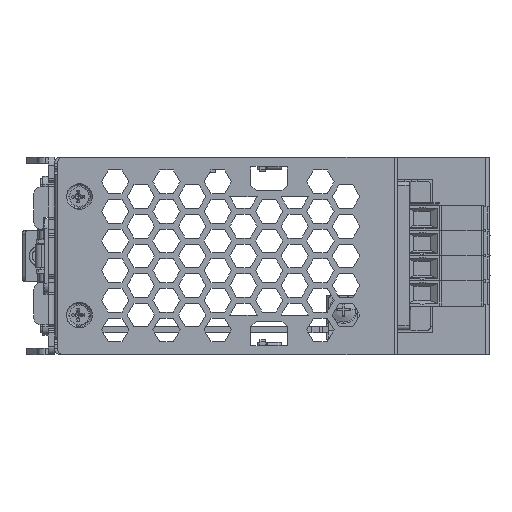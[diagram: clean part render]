
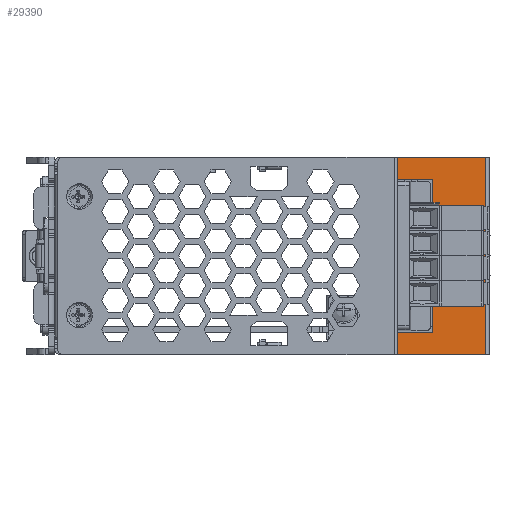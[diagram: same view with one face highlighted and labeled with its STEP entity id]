
A CAD part, front view. The second image highlights one B-rep face of the part: STEP entity #29390.
In plain terms, the highlighted planar face has unit normal (0, -1, 0).
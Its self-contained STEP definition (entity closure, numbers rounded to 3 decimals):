
#15244=DIRECTION('',(-1.,0.,0.));
#15245=VECTOR('',#15244,22.384);
#15246=CARTESIAN_POINT('',(-0.8,-37.,-25.));
#15247=LINE('',#15246,#15245);
#15256=DIRECTION('',(1.,0.,0.));
#15257=VECTOR('',#15256,8.884);
#15258=CARTESIAN_POINT('',(-23.184,-37.,19.35));
#15259=LINE('',#15258,#15257);
#15260=DIRECTION('',(0.,0.,1.));
#15261=VECTOR('',#15260,50.);
#15262=CARTESIAN_POINT('',(-0.8,-37.,-25.));
#15263=LINE('',#15262,#15261);
#15264=DIRECTION('',(1.,0.,0.));
#15265=VECTOR('',#15264,8.884);
#15266=CARTESIAN_POINT('',(-23.184,-37.,-19.35));
#15267=LINE('',#15266,#15265);
#15268=DIRECTION('',(0.,0.,-1.));
#15269=VECTOR('',#15268,38.7);
#15270=CARTESIAN_POINT('',(-14.3,-37.,19.35));
#15271=LINE('',#15270,#15269);
#15285=DIRECTION('',(0.,0.,1.));
#15286=VECTOR('',#15285,5.65);
#15287=CARTESIAN_POINT('',(-23.184,-37.,19.35));
#15288=LINE('',#15287,#15286);
#15294=DIRECTION('',(0.,0.,1.));
#15295=VECTOR('',#15294,5.65);
#15296=CARTESIAN_POINT('',(-23.184,-37.,-25.));
#15297=LINE('',#15296,#15295);
#16032=DIRECTION('',(-1.,0.,0.));
#16033=VECTOR('',#16032,22.384);
#16034=CARTESIAN_POINT('',(-0.8,-37.,25.));
#16035=LINE('',#16034,#16033);
#24799=CARTESIAN_POINT('',(-0.8,-37.,-25.));
#24800=VERTEX_POINT('',#24799);
#24801=CARTESIAN_POINT('',(-0.8,-37.,25.));
#24802=VERTEX_POINT('',#24801);
#24807=CARTESIAN_POINT('',(-23.184,-37.,-25.));
#24808=VERTEX_POINT('',#24807);
#24815=CARTESIAN_POINT('',(-23.184,-37.,25.));
#24816=VERTEX_POINT('',#24815);
#24839=CARTESIAN_POINT('',(-23.184,-37.,19.35));
#24840=CARTESIAN_POINT('',(-14.3,-37.,19.35));
#24841=VERTEX_POINT('',#24839);
#24842=VERTEX_POINT('',#24840);
#24843=CARTESIAN_POINT('',(-14.3,-37.,-19.35));
#24844=VERTEX_POINT('',#24843);
#24845=CARTESIAN_POINT('',(-23.184,-37.,-19.35));
#24846=VERTEX_POINT('',#24845);
#29368=CARTESIAN_POINT('',(-0.8,-37.,-25.));
#29369=DIRECTION('',(0.,1.,0.));
#29370=DIRECTION('',(-1.,0.,0.));
#29371=AXIS2_PLACEMENT_3D('',#29368,#29369,#29370);
#29372=PLANE('',#29371);
#29374=ORIENTED_EDGE('',*,*,#29373,.F.);
#29376=ORIENTED_EDGE('',*,*,#29375,.T.);
#29378=ORIENTED_EDGE('',*,*,#29377,.F.);
#29380=ORIENTED_EDGE('',*,*,#29379,.F.);
#29381=ORIENTED_EDGE('',*,*,#29358,.T.);
#29383=ORIENTED_EDGE('',*,*,#29382,.T.);
#29385=ORIENTED_EDGE('',*,*,#29384,.T.);
#29387=ORIENTED_EDGE('',*,*,#29386,.F.);
#29388=EDGE_LOOP('',(#29374,#29376,#29378,#29380,#29381,#29383,#29385,#29387));
#29389=FACE_OUTER_BOUND('',#29388,.F.);
#29358=EDGE_CURVE('',#24800,#24808,#15247,.T.);
#29373=EDGE_CURVE('',#24841,#24842,#15259,.T.);
#29375=EDGE_CURVE('',#24841,#24816,#15288,.T.);
#29377=EDGE_CURVE('',#24802,#24816,#16035,.T.);
#29379=EDGE_CURVE('',#24800,#24802,#15263,.T.);
#29382=EDGE_CURVE('',#24808,#24846,#15297,.T.);
#29384=EDGE_CURVE('',#24846,#24844,#15267,.T.);
#29386=EDGE_CURVE('',#24842,#24844,#15271,.T.);
#29390=ADVANCED_FACE('',(#29389),#29372,.F.);
